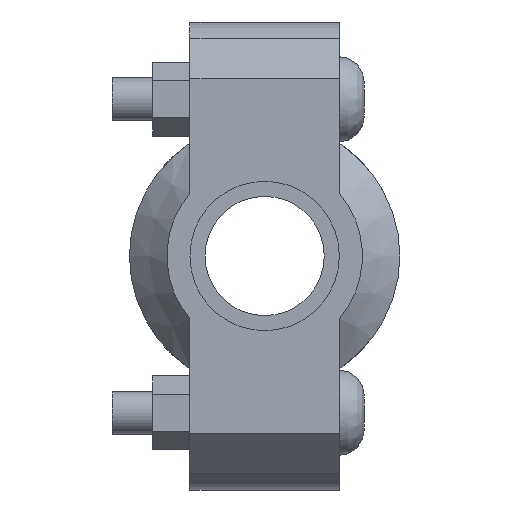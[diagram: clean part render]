
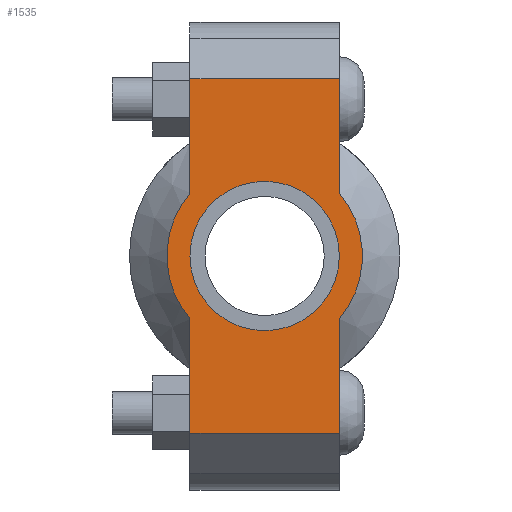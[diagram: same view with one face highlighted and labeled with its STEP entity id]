
A CAD part, left-side view. The second image highlights one B-rep face of the part: STEP entity #1535.
In plain terms, the highlighted planar face has unit normal (-1, 0, 0) as drawn and (0, 0, 1) by its records, which use the part's own axes.
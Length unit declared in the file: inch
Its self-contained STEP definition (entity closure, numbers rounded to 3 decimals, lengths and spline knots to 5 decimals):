
#146=LINE('',#2637,#241);
#161=LINE('',#2696,#256);
#169=LINE('',#2726,#264);
#171=LINE('',#2729,#266);
#172=LINE('',#2734,#267);
#173=LINE('',#2735,#268);
#241=VECTOR('',#2131,0.3937);
#256=VECTOR('',#2166,0.3937);
#264=VECTOR('',#2186,0.3937);
#266=VECTOR('',#2190,0.3937);
#267=VECTOR('',#2195,0.3937);
#268=VECTOR('',#2196,0.3937);
#328=FACE_BOUND('',#487,.T.);
#388=FACE_OUTER_BOUND('',#486,.T.);
#486=EDGE_LOOP('',(#1230,#1231,#1232,#1233,#1234,#1235,#1236,#1237));
#487=EDGE_LOOP('',(#1238));
#592=CIRCLE('',#1798,0.86);
#593=CIRCLE('',#1799,0.86);
#594=CIRCLE('',#1800,0.6575);
#701=VERTEX_POINT('',#2634);
#702=VERTEX_POINT('',#2636);
#723=VERTEX_POINT('',#2691);
#724=VERTEX_POINT('',#2695);
#733=VERTEX_POINT('',#2721);
#734=VERTEX_POINT('',#2725);
#735=VERTEX_POINT('',#2731);
#736=VERTEX_POINT('',#2733);
#737=VERTEX_POINT('',#2737);
#871=EDGE_CURVE('',#702,#701,#146,.T.);
#896=EDGE_CURVE('',#724,#723,#161,.T.);
#909=EDGE_CURVE('',#734,#733,#169,.T.);
#911=EDGE_CURVE('',#734,#701,#171,.T.);
#912=EDGE_CURVE('',#733,#735,#592,.T.);
#913=EDGE_CURVE('',#735,#736,#172,.T.);
#914=EDGE_CURVE('',#724,#736,#173,.T.);
#915=EDGE_CURVE('',#723,#702,#593,.T.);
#916=EDGE_CURVE('',#737,#737,#594,.T.);
#1230=ORIENTED_EDGE('',*,*,#911,.F.);
#1231=ORIENTED_EDGE('',*,*,#909,.T.);
#1232=ORIENTED_EDGE('',*,*,#912,.T.);
#1233=ORIENTED_EDGE('',*,*,#913,.T.);
#1234=ORIENTED_EDGE('',*,*,#914,.F.);
#1235=ORIENTED_EDGE('',*,*,#896,.T.);
#1236=ORIENTED_EDGE('',*,*,#915,.T.);
#1237=ORIENTED_EDGE('',*,*,#871,.T.);
#1238=ORIENTED_EDGE('',*,*,#916,.T.);
#1387=PLANE('',#1797);
#1535=ADVANCED_FACE('',(#388,#328),#1387,.T.);
#1797=AXIS2_PLACEMENT_3D('',#2730,#2191,#2192);
#1798=AXIS2_PLACEMENT_3D('',#2732,#2193,#2194);
#1799=AXIS2_PLACEMENT_3D('',#2736,#2197,#2198);
#1800=AXIS2_PLACEMENT_3D('',#2738,#2199,#2200);
#2131=DIRECTION('',(1.,0.,0.));
#2166=DIRECTION('',(1.,0.,0.));
#2186=DIRECTION('',(-1.,0.,0.));
#2190=DIRECTION('',(0.,-1.,0.));
#2191=DIRECTION('center_axis',(0.,0.,1.));
#2192=DIRECTION('ref_axis',(-1.,0.,0.));
#2193=DIRECTION('center_axis',(0.,0.,1.));
#2194=DIRECTION('ref_axis',(1.,0.,0.));
#2195=DIRECTION('',(-1.,0.,0.));
#2196=DIRECTION('',(0.,1.,0.));
#2197=DIRECTION('center_axis',(0.,0.,1.));
#2198=DIRECTION('ref_axis',(1.,0.,0.));
#2199=DIRECTION('center_axis',(0.,0.,-1.));
#2200=DIRECTION('ref_axis',(1.,0.,0.));
#2634=CARTESIAN_POINT('',(1.56,-0.6575,0.875));
#2636=CARTESIAN_POINT('',(0.55434,-0.6575,0.875));
#2637=CARTESIAN_POINT('',(-2.06,-0.6575,0.875));
#2691=CARTESIAN_POINT('',(-0.55434,-0.6575,0.875));
#2695=CARTESIAN_POINT('',(-1.56,-0.6575,0.875));
#2696=CARTESIAN_POINT('',(-2.06,-0.6575,0.875));
#2721=CARTESIAN_POINT('',(0.55434,0.6575,0.875));
#2725=CARTESIAN_POINT('',(1.56,0.6575,0.875));
#2726=CARTESIAN_POINT('',(2.06,0.6575,0.875));
#2729=CARTESIAN_POINT('',(1.56,-0.32875,0.875));
#2730=CARTESIAN_POINT('Origin',(0.,0.,
0.875));
#2731=CARTESIAN_POINT('',(-0.55434,0.6575,0.875));
#2732=CARTESIAN_POINT('Origin',(0.,0.,0.875));
#2733=CARTESIAN_POINT('',(-1.56,0.6575,0.875));
#2734=CARTESIAN_POINT('',(2.06,0.6575,0.875));
#2735=CARTESIAN_POINT('',(-1.56,0.32875,0.875));
#2736=CARTESIAN_POINT('Origin',(0.,0.,0.875));
#2737=CARTESIAN_POINT('',(-0.6575,0.,0.875));
#2738=CARTESIAN_POINT('Origin',(0.,0.,0.875));
